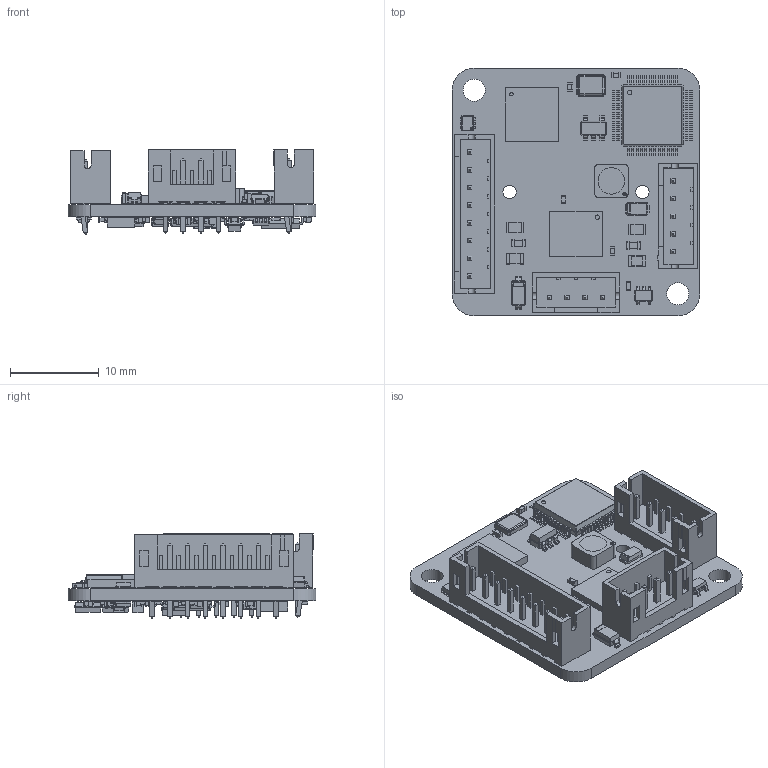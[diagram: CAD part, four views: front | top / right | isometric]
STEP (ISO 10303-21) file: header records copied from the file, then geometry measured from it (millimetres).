
FILE_DESCRIPTION(('STEP AP214'),'1');
FILE_NAME('TMCM-1321_V12.step','2022-01-18T14:11:45',(' '),(' '),'Spatial InterOp 3D','XD3DPlugin XRACreate',' ');
FILE_SCHEMA(('automotive_design'));
Length unit declared in the file: millimetre
Products named in the file (105): DesignRootModel; uid__9223372036946933645; Submodel-C:\work\PADS designs\TMCM-1321\TMCM-1321_V12\CAD\TMCM-1321_V12_PCB\3D\ImportedPartModels\SOT-666.step; SOT-666.xtd; Submodel-BAT54VV_part_SOT666; Submodel-C:\work\PADS designs\TMCM-1321\TMCM-1321_V12\CAD\TMCM-1321_V12_PCB\3D\ImportedPartModels\SOT363.step; SOT363.xtd; Submodel-SN74LVC1G3157DCKR-SC70-6_part_SC70-6; Submodel-C:\work\PADS designs\TMCM-1321\TMCM-1321_V12\CAD\TMCM-1321_V12_PCB\3D\ImportedPartModels\VSSOP8.step; VSSOP8.xtd; Submodel-SN74LVC3G17DCUR_part_MSOP8-0.5; Submodel-C:\work\PADS designs\TMCM-1321\TMCM-1321_V12\CAD\TMCM-1321_V12_PCB\3D\ImportedPartModels\TSSOP8_ALT3.STEP; TSSOP8_ALT3.xtd; Submodel-AT25128B-XHL_TSSOP8-W_part_TSSOP8-W; Submodel-C:\work\PADS designs\TMCM-1321\TMCM-1321_V12\CAD\TMCM-1321_V12_PCB\3D\ImportedPartModels\SOT23.step; SOT23.xtd; Submodel-BSS138_part_SOT23; Submodel-C:\work\PADS designs\TMCM-1321\TMCM-1321_V12\CAD\TMCM-1321_V12_PCB\3D\ImportedPartModels\SOT23-6.step; SOT23-6.xtd; Submodel-LM2841YMK_part_SOT23-6; Submodel-C:\work\PADS designs\TMCM-1321\TMCM-1321_V12\CAD\TMCM-1321_V12_PCB\3D\ImportedPartModels\TSSOP14.step; TSSOP14.xtd; Submodel-AS5047D_part_TSSOP14; Submodel-C:\work\PADS designs\TMCM-1321\TMCM-1321_V12\CAD\TMCM-1321_V12_PCB\3D\ImportedPartModels\R0402.step; R0402.xtd; Submodel-0402_slash_2R2_slash_1_pct__part_IEC-0402; Submodel-0402_slash_1K00_slash_1_pct__part_IEC-0402; Submodel-0402_slash_5K60_slash_1_pct__part_IEC-0402; Submodel-0402_slash_4K7_slash_1_pct__part_IEC-0402; Submodel-0402_slash_100R_slash_1_pct__part_IEC-0402; Submodel-0402_slash_150R_slash_1_pct__part_IEC-0402; Submodel-0402_slash_18K0_slash_1_pct__part_IEC-0402; Submodel-0402_slash_2K20_slash_1_pct__part_IEC-0402; Submodel-C:\work\PADS designs\TMCM-1321\TMCM-1321_V12\CAD\TMCM-1321_V12_PCB\3D\ImportedPartModels\R0603.step; R0603.xtd; Submodel-0603_slash_47K0_slash_1_pct__part_IEC-0603; Submodel-0402_slash_27K0_slash_1_pct__part_IEC-0402; Submodel-C:\work\PADS designs\TMCM-1321\TMCM-1321_V12\CAD\TMCM-1321_V12_PCB\3D\ImportedPartModels\C0402.step; C0402.xtd; Submodel-0402_slash_100PF_slash_50V_part_IEC-0402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
Assembly tree (161 placements, depth 5):
  TMCM-1321_V12
    DesignRootModel
      uid__9223372036946933645
      Submodel-BAT54VV_part_SOT666  x2
        Submodel-C:\work\PADS designs\TMCM-1321\TMCM-1321_V12\CAD\TMCM-1321_V12_PCB\3D\ImportedPartModels\SOT-666.step
          SOT-666.xtd
      Submodel-SN74LVC1G3157DCKR-SC70-6_part_SC70-6  x2
        Submodel-C:\work\PADS designs\TMCM-1321\TMCM-1321_V12\CAD\TMCM-1321_V12_PCB\3D\ImportedPartModels\SOT363.step
          SOT363.xtd
      Submodel-SN74LVC3G17DCUR_part_MSOP8-0.5
        Submodel-C:\work\PADS designs\TMCM-1321\TMCM-1321_V12\CAD\TMCM-1321_V12_PCB\3D\ImportedPartModels\VSSOP8.step
          VSSOP8.xtd
      Submodel-AT25128B-XHL_TSSOP8-W_part_TSSOP8-W
        Submodel-C:\work\PADS designs\TMCM-1321\TMCM-1321_V12\CAD\TMCM-1321_V12_PCB\3D\ImportedPartModels\TSSOP8_ALT3.STEP
          TSSOP8_ALT3.xtd
      Submodel-BSS138_part_SOT23
        Submodel-C:\work\PADS designs\TMCM-1321\TMCM-1321_V12\CAD\TMCM-1321_V12_PCB\3D\ImportedPartModels\SOT23.step
          SOT23.xtd
      Submodel-LM2841YMK_part_SOT23-6
        Submodel-C:\work\PADS designs\TMCM-1321\TMCM-1321_V12\CAD\TMCM-1321_V12_PCB\3D\ImportedPartModels\SOT23-6.step
          SOT23-6.xtd
      Submodel-AS5047D_part_TSSOP14
        Submodel-C:\work\PADS designs\TMCM-1321\TMCM-1321_V12\CAD\TMCM-1321_V12_PCB\3D\ImportedPartModels\TSSOP14.step
          TSSOP14.xtd
      Submodel-0402_slash_2R2_slash_1_pct__part_IEC-0402
        Submodel-C:\work\PADS designs\TMCM-1321\TMCM-1321_V12\CAD\TMCM-1321_V12_PCB\3D\ImportedPartModels\R0402.step
          R0402.xtd
      Submodel-0402_slash_1K00_slash_1_pct__part_IEC-0402
        Submodel-C:\work\PADS designs\TMCM-1321\TMCM-1321_V12\CAD\TMCM-1321_V12_PCB\3D\ImportedPartModels\R0402.step
          R0402.xtd
      Submodel-0402_slash_5K60_slash_1_pct__part_IEC-0402
        Submodel-C:\work\PADS designs\TMCM-1321\TMCM-1321_V12\CAD\TMCM-1321_V12_PCB\3D\ImportedPartModels\R0402.step
          R0402.xtd
      Submodel-0402_slash_4K7_slash_1_pct__part_IEC-0402  x3
        Submodel-C:\work\PADS designs\TMCM-1321\TMCM-1321_V12\CAD\TMCM-1321_V12_PCB\3D\ImportedPartModels\R0402.step
          R0402.xtd
      Submodel-0402_slash_100R_slash_1_pct__part_IEC-0402  x3
        Submodel-C:\work\PADS designs\TMCM-1321\TMCM-1321_V12\CAD\TMCM-1321_V12_PCB\3D\ImportedPartModels\R0402.step
          R0402.xtd
      Submodel-0402_slash_150R_slash_1_pct__part_IEC-0402
        Submodel-C:\work\PADS designs\TMCM-1321\TMCM-1321_V12\CAD\TMCM-1321_V12_PCB\3D\ImportedPartModels\R0402.step
          R0402.xtd
      Submodel-0402_slash_18K0_slash_1_pct__part_IEC-0402
        Submodel-C:\work\PADS designs\TMCM-1321\TMCM-1321_V12\CAD\TMCM-1321_V12_PCB\3D\ImportedPartModels\R0402.step
          R0402.xtd
      Submodel-0402_slash_2K20_slash_1_pct__part_IEC-0402
        Submodel-C:\work\PADS designs\TMCM-1321\TMCM-1321_V12\CAD\TMCM-1321_V12_PCB\3D\ImportedPartModels\R0402.step
          R0402.xtd
      Submodel-0603_slash_47K0_slash_1_pct__part_IEC-0603
        Submodel-C:\work\PADS designs\TMCM-1321\TMCM-1321_V12\CAD\TMCM-1321_V12_PCB\3D\ImportedPartModels\R0603.step
          R0603.xtd
      Submodel-0402_slash_27K0_slash_1_pct__part_IEC-0402  x8
        Submodel-C:\work\PADS designs\TMCM-1321\TMCM-1321_V12\CAD\TMCM-1321_V12_PCB\3D\ImportedPartModels\R0402.step
          R0402.xtd
      Submodel-0402_slash_100PF_slash_50V_part_IEC-0402  x6
        Submodel-C:\work\PADS designs\TMCM-1321\TMCM-1321_V12\CAD\TMCM-1321_V12_PCB\3D\ImportedPartModels\C0402.step
          C0402.xtd
      Submodel-0402_slash_470NF_slash_10V_part_IEC-0402
        Submodel-C:\work\PADS designs\TMCM-1321\TMCM-1321_V12\CAD\TMCM-1321_V12_PCB\3D\ImportedPartModels\C0402.step
          C0402.xtd
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Bounding box: 28 x 28 x 9.5 mm (x, y, z)
Volume: 1848.9 mm3; surface area: 4224.3 mm2
Topology: 113 solids, 113 shells, 5107 faces, 13244 edges, 8506 vertices
Faces by surface type: plane 3736, cylinder 1256, bspline 94, sphere 13, torus 8
Full cylindrical faces by diameter (mm): 0.2 x1, 0.25 x1, 0.263 x1, 0.4 x2, 0.5 x3, 1.5 x2, 2.5 x2, 3 x1
Entity records: 901724 total; most frequent: ORIENTED_EDGE 169916, DIRECTION 154017, EDGE_CURVE 84958, CARTESIAN_POINT 78562, LINE 76697, VECTOR 76697, VERTEX_POINT 56379, AXIS2_PLACEMENT_3D 38660
